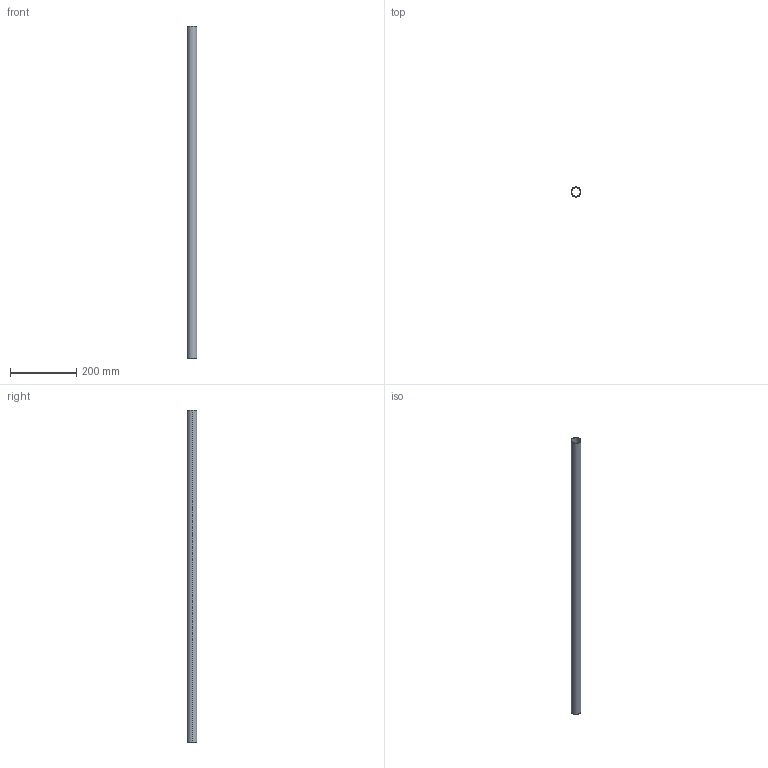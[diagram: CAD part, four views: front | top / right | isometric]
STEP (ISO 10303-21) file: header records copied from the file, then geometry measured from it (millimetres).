
FILE_DESCRIPTION (( 'STEP AP214' ), '1' );
FILE_NAME ('PCT30-1000.STEP', '2022-12-13T01:32:16', ( '' ), ( '' ), 'SwSTEP 2.0', 'SolidWorks 2018', '' );
FILE_SCHEMA (( 'AUTOMOTIVE_DESIGN' ));
Length unit declared in the file: millimetre
Products named in the file (1): PCT30-1000
Bounding box: 30 x 30 x 1000 mm (x, y, z)
Volume: 134303.1 mm3; surface area: 179339.4 mm2
Topology: 1 solids, 1 shells, 6 faces, 12 edges, 8 vertices
Faces by surface type: cylinder 4, plane 2
Entity records: 202 total; most frequent: DIRECTION 34, CARTESIAN_POINT 27, ORIENTED_EDGE 24, AXIS2_PLACEMENT_3D 15, EDGE_CURVE 12, VERTEX_POINT 8, CIRCLE 8, EDGE_LOOP 8
